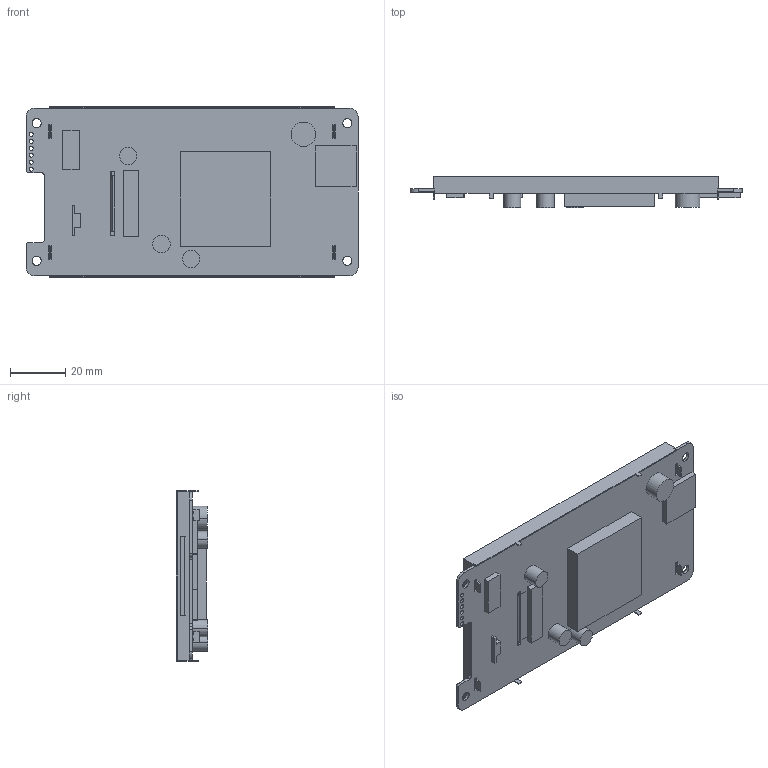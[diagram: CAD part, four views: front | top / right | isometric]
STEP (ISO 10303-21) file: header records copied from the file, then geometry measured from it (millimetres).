
FILE_DESCRIPTION((''),'2;1');
FILE_NAME('DMG80480C043-02W_ASM','2023-02-15T',('Administrator'),(''),'PRO/ENGINEER BY PARAMETRIC TECHNOLOGY CORPORATION, 2014320','PRO/ENGINEER BY PARAMETRIC TECHNOLOGY CORPORATION, 2014320','');
FILE_SCHEMA(('CONFIG_CONTROL_DESIGN','SHAPE_APPEARANCE_LAYERS_GROUPS'));
Length unit declared in the file: millimetre
Products named in the file (4): TK; 043IPS; PCB; DMG80480C043-02W_ASM
Assembly tree (3 placements, depth 2):
  DMG80480C043-02W_ASM
    TK
    043IPS
    PCB
Bounding box: 120.67 x 11.5 x 61.96 mm (x, y, z)
Volume: 32671.4 mm3; surface area: 37197.8 mm2
Topology: 3 solids, 3 shells, 213 faces, 580 edges, 386 vertices
Faces by surface type: plane 165, cylinder 48
Entity records: 7850 total; most frequent: CARTESIAN_POINT 1213, ORIENTED_EDGE 1160, DIRECTION 1108, EDGE_CURVE 580, VECTOR 480, LINE 480, VERTEX_POINT 386, AXIS2_PLACEMENT_3D 314
